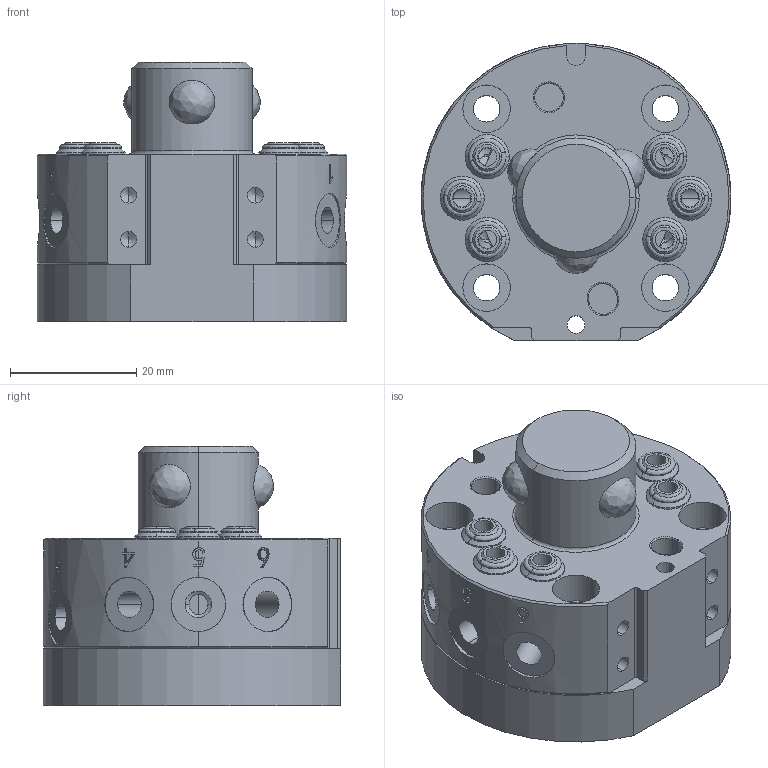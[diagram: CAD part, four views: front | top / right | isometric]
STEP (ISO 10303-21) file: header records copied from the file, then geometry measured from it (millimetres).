
FILE_DESCRIPTION (( 'STEP AP203' ), '1' );
FILE_NAME ('QCA-05R.STEP', '2024-03-19T00:57:57', ( '微软用户' ), ( '微软中国' ), 'SwSTEP 2.0', 'SolidWorks 2018', '' );
FILE_SCHEMA (( 'CONFIG_CONTROL_DESIGN' ));
Length unit declared in the file: millimetre
Products named in the file (1): QCA-05R
Bounding box: 49 x 47 x 41 mm (x, y, z)
Volume: 48853.5 mm3; surface area: 13644.5 mm2
Topology: 1 solids, 3 shells, 443 faces, 1127 edges, 720 vertices
Faces by surface type: cylinder 153, plane 119, cone 104, bspline 67
Entity records: 18212 total; most frequent: CARTESIAN_POINT 7666, ORIENTED_EDGE 2222, DIRECTION 2149, EDGE_CURVE 1111, AXIS2_PLACEMENT_3D 856, VERTEX_POINT 720, EDGE_LOOP 515, CIRCLE 479
